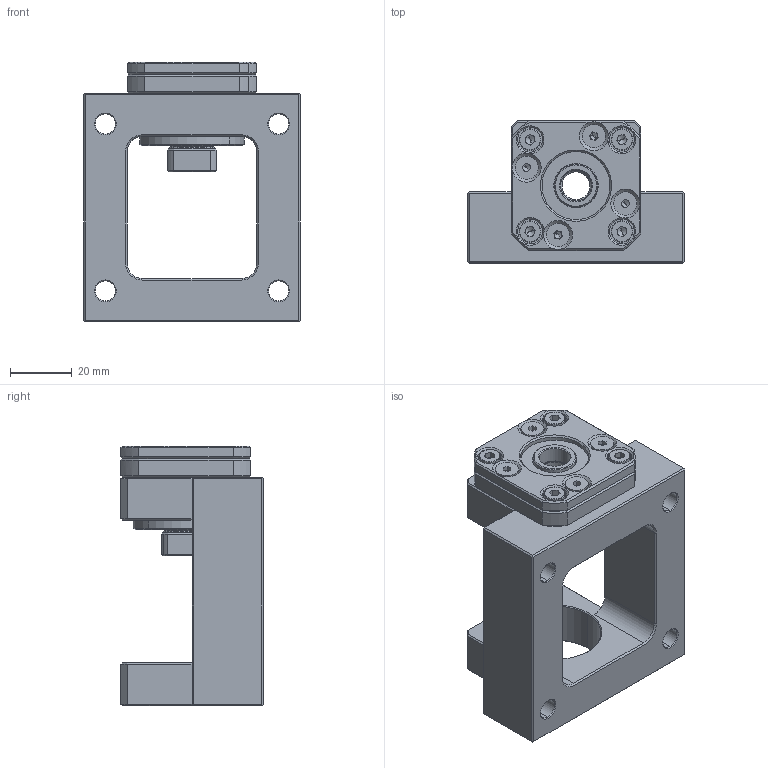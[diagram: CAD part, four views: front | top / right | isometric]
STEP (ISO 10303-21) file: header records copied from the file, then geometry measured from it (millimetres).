
FILE_DESCRIPTION (( 'STEP AP214' ), '1' );
FILE_NAME ('SJU10A.STEP', '2009-06-01T03:18:15', ( '歜煽繹' ), ( '' ), 'SwSTEP 2.0', 'SolidWorks 2007', '' );
FILE_SCHEMA (( 'AUTOMOTIVE_DESIGN' ));
Length unit declared in the file: millimetre
Products named in the file (13): RN10_晦獄 撲薑; Socket Countersunk Head Screw_ISO_ISO 10642 - M4 x 8 --- 8N_ISO 10642 - M4 x 8 --- 8N; HOLDINGLID_SFK10_晦獄 撲薑; SET PIECE_白3.1x1_晦獄 撲薑; Socket Head Cap Screw_ISO_ISO 4762 M4 x 16 --- 16N; Socket Set Screw Flat Point_AM_B18.3.6M - M4 x 0.7 x 4 Hex Socket Flat Pt. SS --N_B18.3.6M - M4 x 0.7 x 4 Hex Socket Flat Pt. SS --N; HOUSING_SFK10_晦獄 撲薑; SEAL_白14.3x白22x3_晦獄 撲薑; SFK10_ル遽; SJU10A_ル遽; SJU10A; COLLAR_SFK10_晦獄 撲薑; 7000ADF_ル遽
Assembly tree (20 placements, depth 3):
  SJU10A
    SFK10_ル遽
      Socket Countersunk Head Screw_ISO_ISO 10642 - M4 x 8 --- 8N_ISO 10642 - M4 x 8 --- 8N  x4
      HOLDINGLID_SFK10_晦獄 撲薑
      SEAL_白14.3x白22x3_晦獄 撲薑  x2
      RN10_晦獄 撲薑
      COLLAR_SFK10_晦獄 撲薑  x2
      SET PIECE_白3.1x1_晦獄 撲薑
      7000ADF_ル遽
      HOUSING_SFK10_晦獄 撲薑
      Socket Set Screw Flat Point_AM_B18.3.6M - M4 x 0.7 x 4 Hex Socket Flat Pt. SS --N_B18.3.6M - M4 x 0.7 x 4 Hex Socket Flat Pt. SS --N
    Socket Head Cap Screw_ISO_ISO 4762 M4 x 16 --- 16N  x4
    SJU10A_ル遽
Bounding box: 70 x 46 x 84 mm (x, y, z)
Volume: 98618.3 mm3; surface area: 46572.3 mm2
Topology: 18 solids, 40 shells, 791 faces, 1838 edges, 1026 vertices
Faces by surface type: plane 264, cone 244, cylinder 185, bspline 72, torus 26
Entity records: 19004 total; most frequent: CARTESIAN_POINT 4566, DIRECTION 3021, ORIENTED_EDGE 2706, EDGE_CURVE 1354, AXIS2_PLACEMENT_3D 1200, VERTEX_POINT 808, EDGE_LOOP 677, CIRCLE 635
